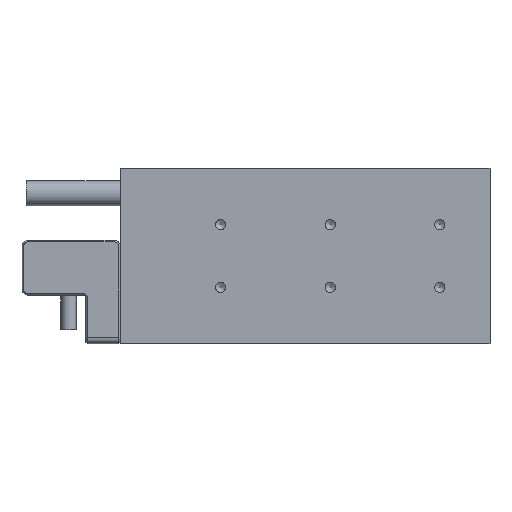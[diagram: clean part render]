
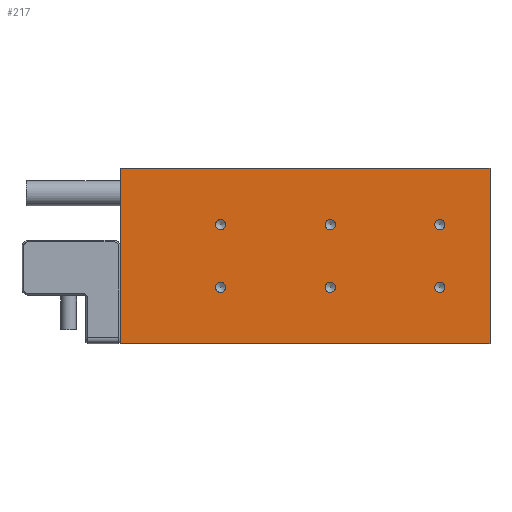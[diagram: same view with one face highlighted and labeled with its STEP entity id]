
A CAD part, front view. The second image highlights one B-rep face of the part: STEP entity #217.
In plain terms, the highlighted planar face has unit normal (0, -1, 0).
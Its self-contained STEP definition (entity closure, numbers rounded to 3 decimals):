
#217 = ADVANCED_FACE( '', ( #456, #457, #458, #459, #460, #461, #462 ), #463, .T. );
#456 = FACE_BOUND( '', #728, .T. );
#457 = FACE_BOUND( '', #729, .T. );
#458 = FACE_BOUND( '', #730, .T. );
#459 = FACE_BOUND( '', #731, .T. );
#460 = FACE_BOUND( '', #732, .T. );
#461 = FACE_BOUND( '', #733, .T. );
#462 = FACE_OUTER_BOUND( '', #734, .T. );
#463 = PLANE( '', #735 );
#728 = EDGE_LOOP( '', ( #1141 ) );
#729 = EDGE_LOOP( '', ( #1142 ) );
#730 = EDGE_LOOP( '', ( #1143 ) );
#731 = EDGE_LOOP( '', ( #1144 ) );
#732 = EDGE_LOOP( '', ( #1145 ) );
#733 = EDGE_LOOP( '', ( #1146 ) );
#734 = EDGE_LOOP( '', ( #1147, #1148, #1149, #1150 ) );
#735 = AXIS2_PLACEMENT_3D( '', #1151, #1152, #1153 );
#1141 = ORIENTED_EDGE( '', *, *, #1483, .T. );
#1142 = ORIENTED_EDGE( '', *, *, #1544, .T. );
#1143 = ORIENTED_EDGE( '', *, *, #1450, .T. );
#1144 = ORIENTED_EDGE( '', *, *, #1542, .T. );
#1145 = ORIENTED_EDGE( '', *, *, #1545, .T. );
#1146 = ORIENTED_EDGE( '', *, *, #1510, .T. );
#1147 = ORIENTED_EDGE( '', *, *, #1546, .T. );
#1148 = ORIENTED_EDGE( '', *, *, #1547, .T. );
#1149 = ORIENTED_EDGE( '', *, *, #1536, .T. );
#1150 = ORIENTED_EDGE( '', *, *, #1408, .T. );
#1151 = CARTESIAN_POINT( '', ( 0., 0., 0. ) );
#1152 = DIRECTION( '', ( 0., -1., 0. ) );
#1153 = DIRECTION( '', ( 0., 0., -1. ) );
#1408 = EDGE_CURVE( '', #1616, #1617, #1618, .T. );
#1450 = EDGE_CURVE( '', #1686, #1686, #1687, .T. );
#1483 = EDGE_CURVE( '', #1738, #1738, #1739, .T. );
#1510 = EDGE_CURVE( '', #1777, #1777, #1778, .T. );
#1536 = EDGE_CURVE( '', #1809, #1616, #1810, .T. );
#1542 = EDGE_CURVE( '', #1816, #1816, #1817, .T. );
#1544 = EDGE_CURVE( '', #1819, #1819, #1820, .T. );
#1545 = EDGE_CURVE( '', #1821, #1821, #1822, .T. );
#1546 = EDGE_CURVE( '', #1617, #1823, #1824, .T. );
#1547 = EDGE_CURVE( '', #1823, #1809, #1825, .T. );
#1616 = VERTEX_POINT( '', #1901 );
#1617 = VERTEX_POINT( '', #1902 );
#1618 = LINE( '', #1903, #1904 );
#1686 = VERTEX_POINT( '', #1991 );
#1687 = CIRCLE( '', #1992, 1.621 );
#1738 = VERTEX_POINT( '', #2057 );
#1739 = CIRCLE( '', #2058, 1.621 );
#1777 = VERTEX_POINT( '', #2107 );
#1778 = CIRCLE( '', #2108, 1.621 );
#1809 = VERTEX_POINT( '', #2149 );
#1810 = LINE( '', #2150, #2151 );
#1816 = VERTEX_POINT( '', #2158 );
#1817 = CIRCLE( '', #2159, 1.621 );
#1819 = VERTEX_POINT( '', #2161 );
#1820 = CIRCLE( '', #2162, 1.621 );
#1821 = VERTEX_POINT( '', #2163 );
#1822 = CIRCLE( '', #2164, 1.621 );
#1823 = VERTEX_POINT( '', #2165 );
#1824 = LINE( '', #2166, #2167 );
#1825 = LINE( '', #2168, #2169 );
#1901 = CARTESIAN_POINT( '', ( 59., 0., 28. ) );
#1902 = CARTESIAN_POINT( '', ( -59., 0., 28. ) );
#1903 = CARTESIAN_POINT( '', ( 59., 0., 28. ) );
#1904 = VECTOR( '', #2258, 1000. );
#1991 = CARTESIAN_POINT( '', ( 8., 0., -11.621 ) );
#1992 = AXIS2_PLACEMENT_3D( '', #2311, #2312, #2313 );
#2057 = CARTESIAN_POINT( '', ( 43., 0., -11.621 ) );
#2058 = AXIS2_PLACEMENT_3D( '', #2358, #2359, #2360 );
#2107 = CARTESIAN_POINT( '', ( -27., 0., 8.379 ) );
#2108 = AXIS2_PLACEMENT_3D( '', #2390, #2391, #2392 );
#2149 = CARTESIAN_POINT( '', ( 59., 0., -28. ) );
#2150 = CARTESIAN_POINT( '', ( 59., 0., -28. ) );
#2151 = VECTOR( '', #2418, 1000. );
#2158 = CARTESIAN_POINT( '', ( 8., 0., 8.379 ) );
#2159 = AXIS2_PLACEMENT_3D( '', #2423, #2424, #2425 );
#2161 = CARTESIAN_POINT( '', ( 43., 0., 8.379 ) );
#2162 = AXIS2_PLACEMENT_3D( '', #2426, #2427, #2428 );
#2163 = CARTESIAN_POINT( '', ( -27., 0., -11.621 ) );
#2164 = AXIS2_PLACEMENT_3D( '', #2429, #2430, #2431 );
#2165 = CARTESIAN_POINT( '', ( -59., 0., -28. ) );
#2166 = CARTESIAN_POINT( '', ( -59., 0., 28. ) );
#2167 = VECTOR( '', #2432, 1000. );
#2168 = CARTESIAN_POINT( '', ( -59., 0., -28. ) );
#2169 = VECTOR( '', #2433, 1000. );
#2258 = DIRECTION( '', ( -1., 0., 0. ) );
#2311 = CARTESIAN_POINT( '', ( 8., 0., -10. ) );
#2312 = DIRECTION( '', ( 0., 1., 0. ) );
#2313 = DIRECTION( '', ( 0., 0., -1. ) );
#2358 = CARTESIAN_POINT( '', ( 43., 0., -10. ) );
#2359 = DIRECTION( '', ( 0., 1., 0. ) );
#2360 = DIRECTION( '', ( 0., 0., -1. ) );
#2390 = CARTESIAN_POINT( '', ( -27., 0., 10. ) );
#2391 = DIRECTION( '', ( 0., 1., 0. ) );
#2392 = DIRECTION( '', ( 0., 0., -1. ) );
#2418 = DIRECTION( '', ( 0., 0., 1. ) );
#2423 = CARTESIAN_POINT( '', ( 8., 0., 10. ) );
#2424 = DIRECTION( '', ( 0., 1., 0. ) );
#2425 = DIRECTION( '', ( 0., 0., -1. ) );
#2426 = CARTESIAN_POINT( '', ( 43., 0., 10. ) );
#2427 = DIRECTION( '', ( 0., 1., 0. ) );
#2428 = DIRECTION( '', ( 0., 0., -1. ) );
#2429 = CARTESIAN_POINT( '', ( -27., 0., -10. ) );
#2430 = DIRECTION( '', ( 0., 1., 0. ) );
#2431 = DIRECTION( '', ( 0., 0., -1. ) );
#2432 = DIRECTION( '', ( 0., 0., -1. ) );
#2433 = DIRECTION( '', ( 1., 0., 0. ) );
